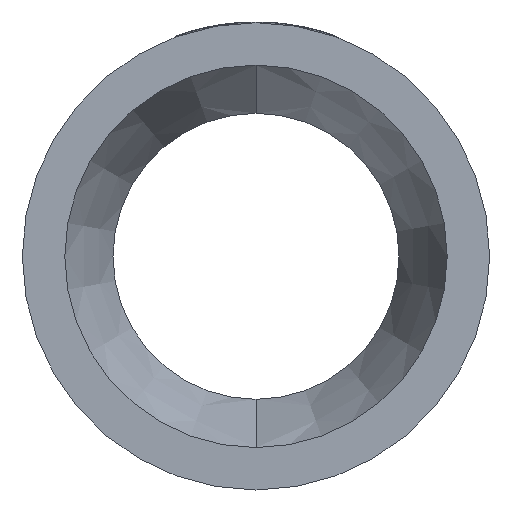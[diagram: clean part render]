
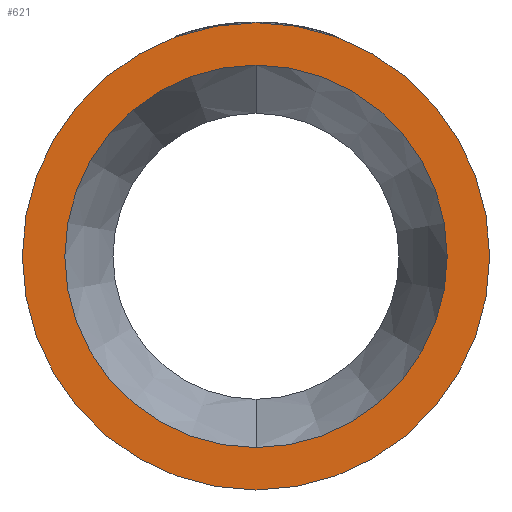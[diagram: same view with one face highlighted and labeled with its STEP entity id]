
A CAD part, left-side view. The second image highlights one B-rep face of the part: STEP entity #621.
In plain terms, the highlighted planar face has unit normal (-1, 0, 0).
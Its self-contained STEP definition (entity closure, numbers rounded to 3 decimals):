
#36 = VERTEX_POINT ( 'NONE', #158 ) ;
#90 = PLANE ( 'NONE',  #1615 ) ;
#141 = AXIS2_PLACEMENT_3D ( 'NONE', #1322, #1276, #1259 ) ;
#158 = CARTESIAN_POINT ( 'NONE',  ( 0., 0., -128.9 ) ) ;
#183 = AXIS2_PLACEMENT_3D ( 'NONE', #1500, #1485, #1467 ) ;
#421 = DIRECTION ( 'NONE',  ( 0., 0., 1. ) ) ;
#433 = DIRECTION ( 'NONE',  ( -1., 0., 0. ) ) ;
#451 = CARTESIAN_POINT ( 'NONE',  ( 0., 0., 0. ) ) ;
#566 = EDGE_LOOP ( 'NONE', ( #2350, #2397 ) ) ;
#570 = AXIS2_PLACEMENT_3D ( 'NONE', #3494, #3477, #3361 ) ;
#621 = ADVANCED_FACE ( 'NONE', ( #2394, #2124 ), #90, .F. ) ;
#715 = AXIS2_PLACEMENT_3D ( 'NONE', #451, #433, #421 ) ;
#1010 = VERTEX_POINT ( 'NONE', #2060 ) ;
#1259 = DIRECTION ( 'NONE',  ( 0., 0., 1. ) ) ;
#1276 = DIRECTION ( 'NONE',  ( -1., 0., 0. ) ) ;
#1305 = EDGE_LOOP ( 'NONE', ( #2190, #2271 ) ) ;
#1322 = CARTESIAN_POINT ( 'NONE',  ( 0., 0., 0. ) ) ;
#1467 = DIRECTION ( 'NONE',  ( 0., 0., 1. ) ) ;
#1485 = DIRECTION ( 'NONE',  ( -1., 0., 0. ) ) ;
#1500 = CARTESIAN_POINT ( 'NONE',  ( 0., 0., 0. ) ) ;
#1539 = DIRECTION ( 'NONE',  ( 0., 0., -1. ) ) ;
#1596 = VERTEX_POINT ( 'NONE', #2439 ) ;
#1615 = AXIS2_PLACEMENT_3D ( 'NONE', #2704, #2218, #1539 ) ;
#1638 = CARTESIAN_POINT ( 'NONE',  ( 0., 0., 157.5 ) ) ;
#2060 = CARTESIAN_POINT ( 'NONE',  ( 0., 0., -157.5 ) ) ;
#2124 = FACE_OUTER_BOUND ( 'NONE', #566, .T. ) ;
#2190 = ORIENTED_EDGE ( 'NONE', *, *, #3511, .F. ) ;
#2218 = DIRECTION ( 'NONE',  ( 1., 0., 0. ) ) ;
#2271 = ORIENTED_EDGE ( 'NONE', *, *, #2914, .F. ) ;
#2350 = ORIENTED_EDGE ( 'NONE', *, *, #3484, .T. ) ;
#2372 = CIRCLE ( 'NONE', #141, 128.9 ) ;
#2394 = FACE_BOUND ( 'NONE', #1305, .T. ) ;
#2397 = ORIENTED_EDGE ( 'NONE', *, *, #3038, .T. ) ;
#2439 = CARTESIAN_POINT ( 'NONE',  ( 0., 0., 128.9 ) ) ;
#2448 = CIRCLE ( 'NONE', #183, 157.5 ) ;
#2704 = CARTESIAN_POINT ( 'NONE',  ( 0., 128.9, 0. ) ) ;
#2722 = CIRCLE ( 'NONE', #570, 157.5 ) ;
#2755 = CIRCLE ( 'NONE', #715, 128.9 ) ;
#2772 = VERTEX_POINT ( 'NONE', #1638 ) ;
#2914 = EDGE_CURVE ( 'NONE', #36, #1596, #2755, .T. ) ;
#3038 = EDGE_CURVE ( 'NONE', #1010, #2772, #2722, .T. ) ;
#3361 = DIRECTION ( 'NONE',  ( 0., 0., 1. ) ) ;
#3477 = DIRECTION ( 'NONE',  ( -1., 0., 0. ) ) ;
#3484 = EDGE_CURVE ( 'NONE', #2772, #1010, #2448, .T. ) ;
#3494 = CARTESIAN_POINT ( 'NONE',  ( 0., 0., 0. ) ) ;
#3511 = EDGE_CURVE ( 'NONE', #1596, #36, #2372, .T. ) ;
